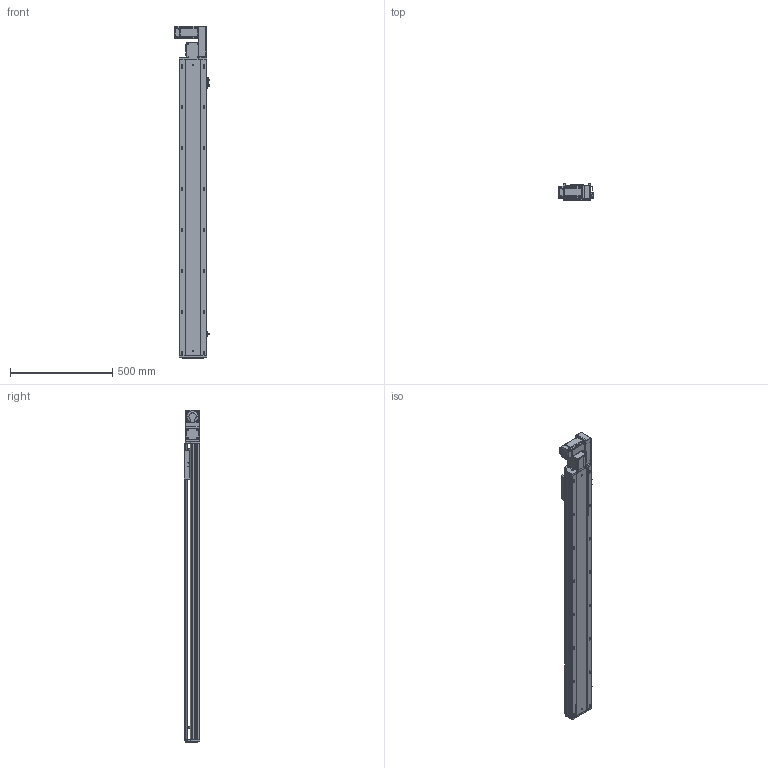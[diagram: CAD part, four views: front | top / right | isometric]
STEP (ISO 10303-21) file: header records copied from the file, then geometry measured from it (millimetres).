
FILE_DESCRIPTION (( 'STEP AP203' ), '1' );
FILE_NAME ('RY140-T-300-RK.SLDASM_1200.step', '2021-03-01T06:46:06', ( '盈信电脑' ), ( '东莞市道滘镇水果街19号' ), 'SwSTEP 2.0', 'SolidWorks 2012', '' );
FILE_SCHEMA (( 'CONFIG_CONTROL_DESIGN' ));
Products named in the file (17): 15; RY120-T蹟翐M4; RY140-T萇儂假蚾啣; RY140-T萇儂欶; RY140-T翋肮祭謫盓傅釱; RY140-T翋肮謫裔啣; 滅袉蝶18-10; RY120外置感应片(140共用）; RY120-T肮祭湍揤踡輸1; RY120-T肮祭湍揤踡輸2; RY140-T-300-DR倰第奻裔啣_1200; 覜茼ん672; RY140肮祭謫臏賑輸; RY140綴裔啣; RY140-T-300-DR倰第菁釱_1200; RY120-T主同步轮轴承压盖; RY140-T-300-RK.SLDASM_1200
Assembly tree (22 placements, depth 2):
  RY140-T-300-RK.SLDASM_1200
    RY140-T-300-DR倰第菁釱_1200
    RY140肮祭謫臏賑輸
    RY140-T-300-DR倰第奻裔啣_1200
    RY140綴裔啣
    覜茼ん672  x3
    RY120外置感应片(140共用）
    RY120-T肮祭湍揤踡輸2
    RY120-T肮祭湍揤踡輸1
    RY140-T翋肮祭謫盓傅釱
    滅袉蝶18-10  x2
    RY140-T翋肮謫裔啣
    RY140-T萇儂欶
    RY140-T萇儂假蚾啣
    RY120-T蹟翐M4  x4
    15
    RY120-T主同步轮轴承压盖
Bounding box: 170.7 x 78 x 1623.5 mm (x, y, z)
Volume: 4469540 mm3; surface area: 1717631.9 mm2
Topology: 22 solids, 22 shells, 2715 faces, 7429 edges, 4756 vertices
Faces by surface type: plane 1385, cylinder 996, cone 234, bspline 100
Entity records: 85638 total; most frequent: CARTESIAN_POINT 20867, ORIENTED_EDGE 13314, DIRECTION 12685, EDGE_CURVE 6657, VERTEX_POINT 4355, VECTOR 4249, LINE 4249, AXIS2_PLACEMENT_3D 4218
